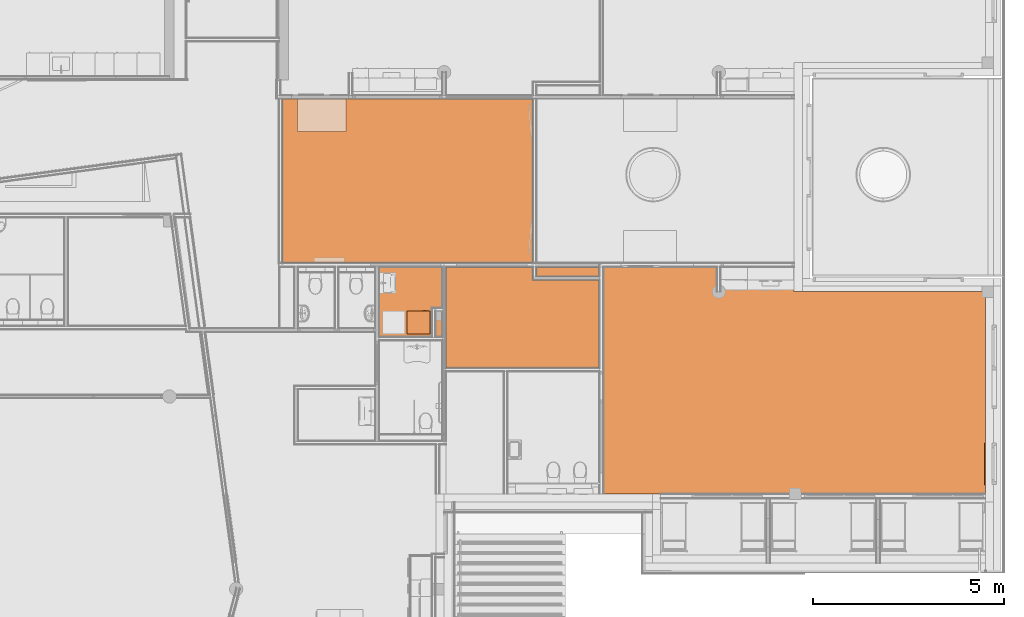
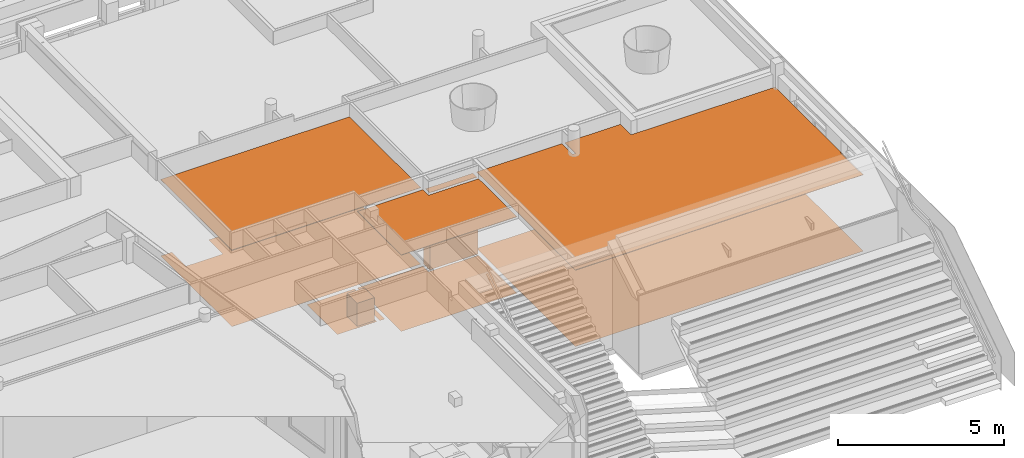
# One storey, part 154 of 167: 9 proxies.
"""IFC2X3 building model written with IfcOpenShell, lengths in millimetres."""

from ifc_helpers import new_model, entity, si_unit, converted_unit, derived_unit, money_unit, direction, frame, origin_with_axes, place, context, subcontext, project, spatial, open_shell, faceted_brep, surface_model, material, type_object, element, save


model = new_model("IFC2X3")

# Units and contexts
model_context = context("Model", 3, precision=0.01, world=origin_with_axes(), true_north=direction((0.0, 1.0)))
plan_context = context("Plan", 3, precision=0.01, world=origin_with_axes(), true_north=direction((0.0, 1.0)))
body_context = subcontext(model_context, "Body", "Model", "MODEL_VIEW")
ifc_project = project(units=[si_unit("LENGTHUNIT", "METRE", prefix="MILLI"), si_unit("AREAUNIT", "SQUARE_METRE"), si_unit("VOLUMEUNIT", "CUBIC_METRE"), converted_unit("PLANEANGLEUNIT", "DEGREE", entity("IfcPlaneAngleMeasure", 0.0174532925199), si_unit("PLANEANGLEUNIT", "RADIAN"), dimensions=[0, 0, 0, 0, 0, 0, 0]), si_unit("SOLIDANGLEUNIT", "STERADIAN"), money_unit("EUR"), converted_unit("TIMEUNIT", "Year", entity("IfcTimeMeasure", 31556926.0), si_unit("TIMEUNIT", "SECOND"), dimensions=[0, 0, 1, 0, 0, 0, 0]), si_unit("MASSUNIT", "GRAM", prefix="KILO"), si_unit("THERMODYNAMICTEMPERATUREUNIT", "DEGREE_CELSIUS"), si_unit("LUMINOUSINTENSITYUNIT", "LUMEN"), si_unit("ENERGYUNIT", "JOULE", prefix="MEGA"), derived_unit("THERMALCONDUCTANCEUNIT", [(si_unit("POWERUNIT", "WATT"), 1), (si_unit("LENGTHUNIT", "METRE"), -1), (si_unit("THERMODYNAMICTEMPERATUREUNIT", "KELVIN"), -1)]), derived_unit("SPECIFICHEATCAPACITYUNIT", [(si_unit("ENERGYUNIT", "JOULE"), 1), (si_unit("MASSUNIT", "GRAM", prefix="KILO"), -1), (si_unit("THERMODYNAMICTEMPERATUREUNIT", "KELVIN"), -1)]), derived_unit("MASSDENSITYUNIT", [(si_unit("MASSUNIT", "GRAM", prefix="KILO"), 1), (si_unit("VOLUMEUNIT", "CUBIC_METRE"), -1)])], contexts=[model_context, plan_context])

# Site, building, storey
site_placement = place(None, origin_with_axes())
site = spatial("IfcSite", under=ifc_project, at=site_placement, Name="Site", CompositionType="ELEMENT")
building_placement = place(site_placement, origin_with_axes())
building = spatial("IfcBuilding", under=site, at=building_placement, Name="Naam gebouw", CompositionType="ELEMENT")
storey_placement = place(building_placement, origin_with_axes())
storey = spatial("IfcBuildingStorey", under=building, at=storey_placement, Name="Begane grond", CompositionType="ELEMENT", Elevation=0.0)

# Proxies
ifc_material_1 = material(Name="ALG - BINNENAFWERKING")
building_element_proxy_type_1 = type_object("IfcBuildingElementProxyType", Name="ALG - BINNENAFWERKING 10", PredefinedType="NOTDEFINED")
proxy_1_placement = place(storey_placement, frame((28850.0, 34599.9995346, 2800.0), z_axis=(0.0, 0.0, 1.0), x_axis=(1.0, 0.0, 0.0)))
element("IfcBuildingElementProxy", 1, at=proxy_1_placement, inside=storey, type_object=building_element_proxy_type_1, material=ifc_material_1, Name="23__Vloer-x", context=body_context, shape_type="Brep", body=[
    faceted_brep([(2271.79688487, 2300.00046543, 10.0), (2271.79688487, 2312.50046543, 10.0), (2271.79688487, 2637.50046543, 10.0), (0.0, 2637.50046543, 10.0), (0.0, 0.0, 10.0), (4012.78146645, 0.0, 10.0), (4012.78146645, 2300.00046543, 10.0), (2271.79688487, 2300.00046543, 0.0), (2271.79688487, 2312.50046543, 0.0), (2271.79688487, 2637.50046543, 0.0), (0.0, 2637.50046543, 0.0), (0.0, 0.0, 0.0), (4012.78146645, 0.0, 0.0), (4012.78146645, 2300.00046543, 0.0)], [[[0, 1, 2, 3, 4, 5, 6]], [[7, 8, 1, 0]], [[8, 9, 2, 1]], [[3, 2, 9, 10]], [[4, 3, 10, 11]], [[5, 4, 11, 12]], [[12, 13, 6, 5]], [[7, 0, 6, 13]], [[10, 9, 8, 7, 13, 12, 11]]]),
    faceted_brep([(4012.78146645, 2637.50046543, 0.0), (2371.79688487, 2637.50046543, 0.0), (2371.79688487, 2637.50046543, 10.0), (4012.78146645, 2637.50046543, 10.0), (4012.78146645, 2400.00046543, 0.0), (2371.79688487, 2400.00046543, 0.0), (2371.79688487, 2400.00046543, 10.0), (4012.78146645, 2400.00046543, 10.0)], [[[0, 1, 2, 3]], [[4, 5, 1, 0]], [[5, 6, 2, 1]], [[3, 2, 6, 7]], [[3, 7, 4, 0]], [[7, 6, 5, 4]]]),
])
proxy_2_placement = place(storey_placement, frame((32987.7814665, 37237.5, 2800.0), z_axis=(0.0, 0.0, 1.0), x_axis=(1.0, 0.0, 0.0)))
element("IfcBuildingElementProxy", 2, at=proxy_2_placement, inside=storey, type_object=building_element_proxy_type_1, material=ifc_material_1, Name="23__Vloer-x", context=body_context, shape_type="Brep", body=[
    faceted_brep([(2962.21853355, -637.499997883, 0.0), (3062.21853355, -637.499997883, 0.0), (3062.21853355, -587.49999395, 0.0), (3062.21853355, 0.0, 0.0), (4987.21853355, 0.0, 0.0), (4987.21853355, -637.500008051, 0.0), (9998.21852178, -637.499728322, 0.0), (9998.21860149, -5937.50022618, 0.0), (1487.21853423, -5937.50022618, 0.0), (0.0, -5937.50022618, 0.0), (0.0, 0.0, 0.0), (2962.21853355, 0.0, 0.0), (2962.21853355, -587.49999395, 0.0), (9976.55381534, -4602.68106033, -4.25865489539e-05), (9976.55381534, -5707.68106033, -4.25865489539e-05), (9994.55381534, -5707.68106033, -4.25865489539e-05), (9994.55381534, -4602.68106033, -4.25865489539e-05), (2962.21853355, -637.499997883, 10.0), (3062.21853355, -637.499997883, 10.0), (3062.21853355, -587.49999395, 10.0), (3062.21853355, 0.0, 10.0), (4987.21853355, 0.0, 10.0), (4987.21853355, -637.500008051, 10.0), (9998.21852178, -637.499728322, 10.0), (9998.21860149, -5937.50022618, 10.0), (1487.21853423, -5937.50022618, 10.0), (0.0, -5937.50022618, 10.0), (0.0, 0.0, 10.0), (2962.21853355, 0.0, 10.0), (2962.21853355, -587.49999395, 10.0), (9976.55381534, -4602.68106033, 10.0), (9976.55381534, -5707.68106033, 10.0), (9994.55381534, -5707.68106033, 10.0), (9994.55381534, -4602.68106033, 10.0)], [[[0, 1, 2, 3, 4, 5, 6, 7, 8, 9, 10, 11, 12], [13, 14, 15, 16]], [[17, 18, 1, 0]], [[1, 18, 19, 2]], [[3, 2, 19, 20]], [[20, 21, 4, 3]], [[21, 22, 5, 4]], [[22, 23, 6, 5]], [[23, 24, 7, 6]], [[8, 7, 24, 25]], [[9, 8, 25, 26]], [[26, 27, 10, 9]], [[27, 28, 11, 10]], [[28, 29, 12, 11]], [[0, 12, 29, 17]], [[13, 30, 31, 14]], [[14, 31, 32, 15]], [[15, 32, 33, 16]], [[16, 33, 30, 13]], [[19, 18, 17, 29, 28, 27, 26, 25, 24, 23, 22, 21, 20], [32, 31, 30, 33]]]),
])
proxy_3_placement = place(storey_placement, frame((24565.0000092, 37349.999931, 2800.0), z_axis=(0.0, 0.0, 1.0), x_axis=(1.0, 0.0, 0.0)))
element("IfcBuildingElementProxy", 3, at=proxy_3_placement, inside=storey, type_object=building_element_proxy_type_1, material=ifc_material_1, Name="23__Vloer-x", context=body_context, shape_type="Brep", body=[
    faceted_brep([(0.00292572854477, 4300.00006903, 10.0), (8.50507575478e-06, 12.5000690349, 10.0), (6556.5962701, 12.5000690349, 10.0), (6556.79687568, 4300.00006903, 10.0), (0.00292572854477, 4300.00006903, 0.0), (8.50507575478e-06, 12.5000690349, 0.0), (6556.5962701, 12.5000690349, 0.0), (6556.79687568, 4300.00006903, 0.0)], [[[0, 1, 2, 3]], [[4, 5, 1, 0]], [[5, 6, 2, 1]], [[3, 2, 6, 7]], [[0, 3, 7, 4]], [[7, 6, 5, 4]]]),
])
ifc_material_2 = material(Name="_TenW_43_A2 Forbo Impressa")
building_element_proxy_type_2 = type_object("IfcBuildingElementProxyType", Name="_TenW_43_A2 Forbo Impressa 2", PredefinedType="NOTDEFINED")
proxy_4_placement = place(storey_placement, frame((32987.7814665, 31299.9997738, 0.0), z_axis=(0.0, 0.0, 1.0), x_axis=(1.0, 0.0, 0.0)))
element("IfcBuildingElementProxy", 4, at=proxy_4_placement, inside=storey, type_object=building_element_proxy_type_2, material=ifc_material_2, Name="23__Vloer-x", context=body_context, shape_type="Brep", body=[
    faceted_brep([(4987.21845935, 5937.50022618, 0.0), (3062.21853355, 5937.50022618, 0.0), (3062.21853355, 5937.50022618, 2.0), (4987.21845935, 5937.50022618, 2.0), (2962.21853355, 5300.0002283, 0.0), (3062.21853355, 5300.0002283, 0.0), (4987.21845935, 5300.00024001, 0.0), (5475.10061829, 5300.00021813, 0.0), (9426.65883247, 5300.00021813, 0.0), (9912.21846101, 5300.00024001, 0.0), (9912.21846101, 5150.00029366, 0.0), (9998.21853355, 5150.00029366, 0.0), (9998.21853355, 0.0, 0.0), (0.0, 0.0, 0.0), (0.0, 5937.50022618, 0.0), (2962.21853355, 5937.50022618, 0.0), (3062.21853355, 5300.0002283, 2.0), (2962.21853355, 5300.0002283, 2.0), (2962.21853355, 5937.50022618, 2.0), (0.0, 5937.50022618, 2.0), (0.0, 0.0, 2.0), (9998.21853355, 0.0, 2.0), (9998.21853355, 5150.00029366, 2.0), (9912.21846101, 5150.00029366, 2.0), (9912.21846101, 5300.00024001, 2.0), (9426.65883247, 5300.00021813, 2.0), (5475.10061829, 5300.00021813, 2.0), (4987.21845935, 5300.00024001, 2.0)], [[[0, 1, 2, 3]], [[4, 5, 1, 0, 6, 7, 8, 9, 10, 11, 12, 13, 14, 15]], [[5, 16, 2, 1]], [[2, 16, 17, 18, 19, 20, 21, 22, 23, 24, 25, 26, 27, 3]], [[6, 0, 3, 27]], [[17, 16, 5, 4]], [[27, 26, 7, 6]], [[7, 26, 25, 8]], [[9, 8, 25, 24]], [[24, 23, 10, 9]], [[23, 22, 11, 10]], [[22, 21, 12, 11]], [[21, 20, 13, 12]], [[20, 19, 14, 13]], [[19, 18, 15, 14]], [[4, 15, 18, 17]]]),
])
ifc_material_3 = material(Name="_TenW_43_Flexx F15")
building_element_proxy_type_3 = type_object("IfcBuildingElementProxyType", Name="_TenW_43_Flexx F15 2", PredefinedType="NOTDEFINED")
proxy_5_placement = place(storey_placement, frame((27100.0000071, 35417.4000093, 0.0), z_axis=(0.0, 0.0, 1.0), x_axis=(1.0, 0.0, 0.0)))
element("IfcBuildingElementProxy", 5, at=proxy_5_placement, inside=storey, type_object=building_element_proxy_type_3, material=ifc_material_3, Name="23__Vloer-x", context=body_context, shape_type="Brep", body=[
    faceted_brep([(1650.00001524, 0.0, 0.0), (1650.00001524, 665.099990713, 0.0), (1650.00001524, 665.099990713, 2.0), (1650.00001524, 0.0, 2.0), (1474.99999291, 0.0, 0.0), (1474.99999291, 665.099990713, 0.0), (1474.99999291, 665.099990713, 2.0), (1474.99999291, 0.0, 2.0)], [[[0, 1, 2, 3]], [[4, 5, 1, 0]], [[5, 6, 2, 1]], [[3, 2, 6, 7]], [[3, 7, 4, 0]], [[7, 6, 5, 4]]]),
    faceted_brep([(1374.99999291, 765.099990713, 2.0), (1387.49999291, 765.099990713, 2.0), (1650.00001524, 765.099990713, 2.0), (1650.00001524, 1820.09999071, 2.0), (0.000446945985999, 1820.09999071, 2.0), (0.0, 0.0, 2.0), (1374.99999291, 0.0, 2.0), (1374.99999291, 765.099990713, 0.0), (1387.49999291, 765.099990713, 0.0), (1650.00001524, 765.099990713, 0.0), (1650.00001524, 1820.09999071, 0.0), (0.000446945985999, 1820.09999071, 0.0), (0.0, 0.0, 0.0), (1374.99999291, 0.0, 0.0)], [[[0, 1, 2, 3, 4, 5, 6]], [[7, 8, 1, 0]], [[8, 9, 2, 1]], [[3, 2, 9, 10]], [[4, 3, 10, 11]], [[5, 4, 11, 12]], [[12, 13, 6, 5]], [[7, 0, 6, 13]], [[10, 9, 8, 7, 13, 12, 11]]]),
])
building_element_proxy_type_4 = type_object("IfcBuildingElementProxyType", Name="Boekenplank 01 24", PredefinedType="NOTDEFINED")
proxy_6_placement = place(storey_placement, frame((31209.2968849, 37350.0, 0.0), z_axis=(0.0, 0.0, 1.0), x_axis=(-1.0, 0.0, 0.0)))
element("IfcBuildingElementProxy", 6, at=proxy_6_placement, inside=storey, type_object=building_element_proxy_type_4, Name="__Object-x", context=body_context, shape_type="Brep", body=[
    faceted_brep([(-1645.98458158, 400.0, 20.0), (-1645.98458158, 380.0, 20.0), (-1645.98458158, 380.0, 1180.0), (-1645.98458158, 400.0, 1180.0), (-20.0, 400.0, 20.0), (-20.0, 380.0, 20.0), (-20.0, 380.0, 1180.0), (-20.0, 400.0, 1180.0)], [[[0, 1, 2, 3]], [[0, 4, 5, 1]], [[1, 5, 6, 2]], [[3, 2, 6, 7]], [[4, 0, 3, 7]], [[5, 4, 7, 6]]]),
    faceted_brep([(-1645.98458158, 380.0, 0.0), (-1645.98458158, 0.0, 0.0), (-1645.98458158, 0.0, 30.0), (-1645.98458158, 380.0, 30.0), (-20.0, 380.0, 0.0), (-20.0, 0.0, 0.0), (-20.0, 0.0, 30.0), (-20.0, 380.0, 30.0)], [[[0, 1, 2, 3]], [[0, 4, 5, 1]], [[1, 5, 6, 2]], [[3, 2, 6, 7]], [[4, 0, 3, 7]], [[5, 4, 7, 6]]]),
    faceted_brep([(-1645.98458158, 380.0, 1170.0), (-1645.98458158, 0.0, 1170.0), (-1645.98458158, 0.0, 1200.0), (-1645.98458158, 380.0, 1200.0), (-20.0, 380.0, 1170.0), (-20.0, 0.0, 1170.0), (-20.0, 0.0, 1200.0), (-20.0, 380.0, 1200.0)], [[[0, 1, 2, 3]], [[0, 4, 5, 1]], [[1, 5, 6, 2]], [[3, 2, 6, 7]], [[4, 0, 3, 7]], [[5, 4, 7, 6]]]),
    faceted_brep([(-20.0, 0.0, 0.0), (0.0, 0.0, 0.0), (0.0, 0.0, 1200.0), (-20.0, 0.0, 1200.0), (-20.0, 400.0, 0.0), (0.0, 400.0, 0.0), (0.0, 400.0, 1200.0), (-20.0, 400.0, 1200.0)], [[[0, 1, 2, 3]], [[0, 4, 5, 1]], [[1, 5, 6, 2]], [[3, 2, 6, 7]], [[4, 0, 3, 7]], [[5, 4, 7, 6]]]),
    faceted_brep([(-1645.98458158, 400.0, 0.0), (-1665.98458158, 400.0, 0.0), (-1665.98458158, 400.0, 1200.0), (-1645.98458158, 400.0, 1200.0), (-1645.98458158, 0.0, 0.0), (-1665.98458158, 0.0, 0.0), (-1665.98458158, 0.0, 1200.0), (-1645.98458158, 0.0, 1200.0)], [[[0, 1, 2, 3]], [[0, 4, 5, 1]], [[1, 5, 6, 2]], [[3, 2, 6, 7]], [[4, 0, 3, 7]], [[5, 4, 7, 6]]]),
])
ifc_material_4 = material(Name="_TenW_43_Marmoleum Salsa Verde")
building_element_proxy_type_5 = type_object("IfcBuildingElementProxyType", Name="_TenW_43_Marmoleum Salsa Verde 2", PredefinedType="NOTDEFINED")
proxy_7_placement = place(storey_placement, frame((28850.0, 34599.9995346, 0.0), z_axis=(0.0, 0.0, 1.0), x_axis=(1.0, 0.0, 0.0)))
element("IfcBuildingElementProxy", 7, at=proxy_7_placement, inside=storey, type_object=building_element_proxy_type_5, material=ifc_material_4, Name="23__Vloer-x", context=body_context, shape_type="Brep", body=[
    faceted_brep([(0.0, 0.0, 2.0), (0.0, 0.0, 0.0), (4012.78146645, 0.0, 0.0), (4012.78146645, 0.0, 2.0), (0.0, 2637.50046543, 2.0), (0.0, 2637.50046543, 0.0), (2271.79688487, 2637.50046543, 0.0), (2271.79688487, 2300.00046543, 0.0), (4012.78146645, 2300.00046543, 0.0), (4012.78146645, 2300.00046543, 2.0), (2271.79688487, 2300.00046543, 2.0), (2271.79688487, 2637.50046543, 2.0)], [[[0, 1, 2, 3]], [[4, 5, 1, 0]], [[2, 1, 5, 6, 7, 8]], [[3, 2, 8, 9]], [[4, 0, 3, 9, 10, 11]], [[11, 6, 5, 4]], [[10, 7, 6, 11]], [[9, 8, 7, 10]]]),
])
proxy_8_placement = place(storey_placement, frame((24565.0000092, 37362.5, 0.0), z_axis=(0.0, 0.0, 1.0), x_axis=(1.0, 0.0, 0.0)))
element("IfcBuildingElementProxy", 8, at=proxy_8_placement, inside=storey, type_object=building_element_proxy_type_5, material=ifc_material_4, Name="23__Vloer-x", context=body_context, shape_type="Brep", body=[
    faceted_brep([(0.0, 0.0, 2.0), (0.0, 0.0, 0.0), (6556.79687568, 0.0, 0.0), (6556.79687568, 0.0, 2.0), (0.0, 4287.5, 2.0), (0.0, 4287.5, 0.0), (393.36131601, 4287.5, 0.0), (393.36131601, 3437.5, 0.0), (1667.99999081, 3437.5, 0.0), (1667.99999081, 4287.5, 0.0), (6556.79687568, 4287.5, 0.0), (6556.79687568, 4287.5, 2.0), (1667.99999081, 4287.5, 2.0), (1667.99999081, 3437.5, 2.0), (393.36131601, 3437.5, 2.0), (393.36131601, 4287.5, 2.0)], [[[0, 1, 2, 3]], [[4, 5, 1, 0]], [[2, 1, 5, 6, 7, 8, 9, 10]], [[3, 2, 10, 11]], [[4, 0, 3, 11, 12, 13, 14, 15]], [[15, 6, 5, 4]], [[14, 7, 6, 15]], [[13, 8, 7, 14]], [[12, 9, 8, 13]], [[11, 10, 9, 12]]]),
])
building_element_proxy_type_6 = type_object("IfcBuildingElementProxyType", Name="Droger 24", PredefinedType="NOTDEFINED")
proxy_9_placement = place(storey_placement, frame((28428.7955453, 36090.9955132, 0.0), z_axis=(0.0, 0.0, 1.0), x_axis=(-1.0, 0.0, 0.0)))
element("IfcBuildingElementProxy", 9, at=proxy_9_placement, inside=storey, type_object=building_element_proxy_type_6, Name="__object-x", context=body_context, shape_type="SurfaceModel", body=[
    faceted_brep([(0.0, 20.0, 0.0), (600.0, 20.0, 0.0), (600.0, 0.0, 0.0), (0.0, 0.0, 0.0), (0.0, 20.0, 698.888888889), (600.0, 20.0, 698.888888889), (470.0, 20.0, 349.444444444), (447.224318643, 20.0, 434.444444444), (385.0, 20.0, 496.668763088), (300.0, 20.0, 519.444444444), (215.0, 20.0, 496.668763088), (152.775681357, 20.0, 434.444444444), (130.0, 20.0, 349.444444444), (152.775681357, 20.0, 264.444444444), (215.0, 20.0, 202.220125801), (300.0, 20.0, 179.444444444), (385.0, 20.0, 202.220125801), (447.224318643, 20.0, 264.444444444), (600.0, 0.0, 698.888888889), (0.0, 0.0, 698.888888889), (470.0, 0.0, 349.444444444), (447.224318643, 0.0, 264.444444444), (385.0, 0.0, 202.220125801), (300.0, 0.0, 179.444444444), (215.0, 0.0, 202.220125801), (152.775681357, 0.0, 264.444444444), (130.0, 0.0, 349.444444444), (152.775681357, 0.0, 434.444444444), (215.0, 0.0, 496.668763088), (300.0, 0.0, 519.444444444), (385.0, 0.0, 496.668763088), (447.224318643, 0.0, 434.444444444)], [[[0, 1, 2, 3]], [[0, 4, 5, 1], [6, 7, 8, 9, 10, 11, 12, 13, 14, 15, 16, 17]], [[1, 5, 18, 2]], [[3, 2, 18, 19], [20, 21, 22, 23, 24, 25, 26, 27, 28, 29, 30, 31]], [[4, 0, 3, 19]], [[5, 4, 19, 18]], [[7, 6, 20, 31]], [[8, 7, 31, 30]], [[9, 8, 30, 29]], [[10, 9, 29, 28]], [[11, 10, 28, 27]], [[12, 11, 27, 26]], [[13, 12, 26, 25]], [[14, 13, 25, 24]], [[15, 14, 24, 23]], [[16, 15, 23, 22]], [[17, 16, 22, 21]], [[6, 17, 21, 20]]]),
    faceted_brep([(470.0, 40.0, 349.444444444), (447.224318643, 40.0, 434.444444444), (447.224318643, 20.0, 434.444444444), (470.0, 20.0, 349.444444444), (447.224318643, 40.0, 264.444444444), (385.0, 40.0, 202.220125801), (300.0, 40.0, 179.444444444), (215.0, 40.0, 202.220125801), (152.775681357, 40.0, 264.444444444), (130.0, 40.0, 349.444444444), (152.775681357, 40.0, 434.444444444), (215.0, 40.0, 496.668763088), (300.0, 40.0, 519.444444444), (385.0, 40.0, 496.668763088), (436.0, 40.0, 349.444444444), (417.779454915, 40.0, 417.444444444), (368.0, 40.0, 467.223899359), (300.0, 40.0, 485.444444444), (232.0, 40.0, 467.223899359), (182.220545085, 40.0, 417.444444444), (164.0, 40.0, 349.444444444), (182.220545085, 40.0, 281.444444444), (232.0, 40.0, 231.66498953), (300.0, 40.0, 213.444444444), (368.0, 40.0, 231.66498953), (417.779454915, 40.0, 281.444444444), (385.0, 20.0, 496.668763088), (300.0, 20.0, 519.444444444), (215.0, 20.0, 496.668763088), (152.775681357, 20.0, 434.444444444), (130.0, 20.0, 349.444444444), (152.775681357, 20.0, 264.444444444), (215.0, 20.0, 202.220125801), (300.0, 20.0, 179.444444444), (385.0, 20.0, 202.220125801), (447.224318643, 20.0, 264.444444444), (436.0, 20.0, 349.444444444), (417.779454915, 20.0, 281.444444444), (368.0, 20.0, 231.66498953), (300.0, 20.0, 213.444444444), (232.0, 20.0, 231.66498953), (182.220545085, 20.0, 281.444444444), (164.0, 20.0, 349.444444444), (182.220545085, 20.0, 417.444444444), (232.0, 20.0, 467.223899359), (300.0, 20.0, 485.444444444), (368.0, 20.0, 467.223899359), (417.779454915, 20.0, 417.444444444)], [[[0, 1, 2, 3]], [[0, 4, 5, 6, 7, 8, 9, 10, 11, 12, 13, 1], [14, 15, 16, 17, 18, 19, 20, 21, 22, 23, 24, 25]], [[1, 13, 26, 2]], [[3, 2, 26, 27, 28, 29, 30, 31, 32, 33, 34, 35], [36, 37, 38, 39, 40, 41, 42, 43, 44, 45, 46, 47]], [[4, 0, 3, 35]], [[5, 4, 35, 34]], [[6, 5, 34, 33]], [[7, 6, 33, 32]], [[8, 7, 32, 31]], [[9, 8, 31, 30]], [[10, 9, 30, 29]], [[11, 10, 29, 28]], [[12, 11, 28, 27]], [[13, 12, 27, 26]], [[15, 14, 36, 47]], [[16, 15, 47, 46]], [[17, 16, 46, 45]], [[18, 17, 45, 44]], [[19, 18, 44, 43]], [[20, 19, 43, 42]], [[21, 20, 42, 41]], [[22, 21, 41, 40]], [[23, 22, 40, 39]], [[24, 23, 39, 38]], [[25, 24, 38, 37]], [[14, 25, 37, 36]]]),
    surface_model("IfcShellBasedSurfaceModel", [(232.0, 40.0, 467.223899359), (300.0, 40.0, 485.444444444), (300.0, 140.0, 451.444444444), (249.0, 140.0, 437.77903563), (368.0, 40.0, 467.223899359), (351.0, 140.0, 437.77903563), (388.334591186, 140.0, 400.444444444), (402.0, 140.0, 349.444444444), (388.334591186, 140.0, 298.444444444), (351.0, 140.0, 261.109853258), (300.0, 140.0, 247.444444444), (249.0, 140.0, 261.109853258), (211.665408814, 140.0, 298.444444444), (198.0, 140.0, 349.444444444), (211.665408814, 140.0, 400.444444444), (182.220545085, 40.0, 417.444444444), (417.779454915, 40.0, 417.444444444), (436.0, 40.0, 349.444444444), (417.779454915, 40.0, 281.444444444), (368.0, 40.0, 231.66498953), (300.0, 40.0, 213.444444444), (232.0, 40.0, 231.66498953), (182.220545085, 40.0, 281.444444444), (164.0, 40.0, 349.444444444)], [open_shell([[[0, 1, 2, 3]], [[1, 4, 5, 2]], [[2, 5, 6, 7, 8, 9, 10, 11, 12, 13, 14, 3]], [[15, 0, 3, 14]], [[4, 16, 6, 5]], [[16, 17, 7, 6]], [[17, 18, 8, 7]], [[18, 19, 9, 8]], [[19, 20, 10, 9]], [[20, 21, 11, 10]], [[21, 22, 12, 11]], [[22, 23, 13, 12]], [[23, 15, 14, 13]]])]),
    surface_model("IfcShellBasedSurfaceModel", [(0.0, 20.0, 0.0), (0.0, 20.0, 821.666666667), (0.0, 600.0, 821.666666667), (0.0, 600.0, 0.0)], [open_shell([[[0, 1, 2, 3]]])]),
    surface_model("IfcShellBasedSurfaceModel", [(600.0, 20.0, 0.0), (600.0, 20.0, 821.666666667), (600.0, 600.0, 821.666666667), (600.0, 600.0, 0.0)], [open_shell([[[0, 1, 2, 3]]])]),
    surface_model("IfcShellBasedSurfaceModel", [(0.0, 600.0, 0.0), (0.0, 600.0, 821.666666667), (600.0, 600.0, 821.666666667), (600.0, 600.0, 0.0)], [open_shell([[[0, 1, 2, 3]]])]),
    surface_model("IfcShellBasedSurfaceModel", [(0.0, 600.0, 0.0), (0.0, 20.0, 0.0), (600.0, 20.0, 0.0), (600.0, 600.0, 0.0)], [open_shell([[[0, 1, 2, 3]]])]),
    faceted_brep([(0.0, 20.0, 708.333333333), (600.0, 20.0, 708.333333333), (600.0, 0.0, 708.333333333), (0.0, 0.0, 708.333333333), (0.0, 20.0, 812.222222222), (600.0, 20.0, 812.222222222), (600.0, 0.0, 812.222222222), (0.0, 0.0, 812.222222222)], [[[0, 1, 2, 3]], [[0, 4, 5, 1]], [[1, 5, 6, 2]], [[3, 2, 6, 7]], [[4, 0, 3, 7]], [[5, 4, 7, 6]]]),
    surface_model("IfcShellBasedSurfaceModel", [(0.0, 20.0, 698.888888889), (0.0, 20.0, 821.666666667), (600.0, 20.0, 821.666666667), (600.0, 20.0, 698.888888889)], [open_shell([[[0, 1, 2, 3]]])]),
    faceted_brep([(0.0, 0.0, 821.666666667), (600.0, 0.0, 821.666666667), (600.0, 0.0, 850.0), (0.0, 0.0, 850.0), (0.0, 600.0, 821.666666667), (600.0, 600.0, 821.666666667), (600.0, 600.0, 850.0), (0.0, 600.0, 850.0)], [[[0, 1, 2, 3]], [[0, 4, 5, 1]], [[1, 5, 6, 2]], [[3, 2, 6, 7]], [[4, 0, 3, 7]], [[5, 4, 7, 6]]]),
    faceted_brep([(68.6602540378, 0.0, 760.0), (65.0, 0.0, 756.339745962), (60.0, 0.0, 755.0), (55.0, 0.0, 756.339745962), (51.3397459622, 0.0, 760.0), (50.0, 0.0, 765.0), (51.3397459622, 0.0, 770.0), (55.0, 0.0, 773.660254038), (60.0, 0.0, 775.0), (65.0, 0.0, 773.660254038), (68.6602540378, 0.0, 770.0), (70.0, 0.0, 765.0), (68.6602540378, -10.0, 760.0), (65.0, -10.0, 756.339745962), (60.0, -10.0, 755.0), (55.0, -10.0, 756.339745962), (51.3397459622, -10.0, 760.0), (50.0, -10.0, 765.0), (51.3397459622, -10.0, 770.0), (55.0, -10.0, 773.660254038), (60.0, -10.0, 775.0), (65.0, -10.0, 773.660254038), (68.6602540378, -10.0, 770.0), (70.0, -10.0, 765.0)], [[[0, 1, 2, 3, 4, 5, 6, 7, 8, 9, 10, 11]], [[1, 0, 12, 13]], [[2, 1, 13, 14]], [[3, 2, 14, 15]], [[4, 3, 15, 16]], [[5, 4, 16, 17]], [[6, 5, 17, 18]], [[7, 6, 18, 19]], [[8, 7, 19, 20]], [[9, 8, 20, 21]], [[10, 9, 21, 22]], [[11, 10, 22, 23]], [[0, 11, 23, 12]], [[12, 23, 22, 21, 20, 19, 18, 17, 16, 15, 14, 13]]]),
    faceted_brep([(108.660254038, 0.0, 760.0), (105.0, 0.0, 756.339745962), (100.0, 0.0, 755.0), (95.0, 0.0, 756.339745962), (91.3397459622, 0.0, 760.0), (90.0, 0.0, 765.0), (91.3397459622, 0.0, 770.0), (95.0, 0.0, 773.660254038), (100.0, 0.0, 775.0), (105.0, 0.0, 773.660254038), (108.660254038, 0.0, 770.0), (110.0, 0.0, 765.0), (108.660254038, -10.0, 760.0), (105.0, -10.0, 756.339745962), (100.0, -10.0, 755.0), (95.0, -10.0, 756.339745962), (91.3397459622, -10.0, 760.0), (90.0, -10.0, 765.0), (91.3397459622, -10.0, 770.0), (95.0, -10.0, 773.660254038), (100.0, -10.0, 775.0), (105.0, -10.0, 773.660254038), (108.660254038, -10.0, 770.0), (110.0, -10.0, 765.0)], [[[0, 1, 2, 3, 4, 5, 6, 7, 8, 9, 10, 11]], [[1, 0, 12, 13]], [[2, 1, 13, 14]], [[3, 2, 14, 15]], [[4, 3, 15, 16]], [[5, 4, 16, 17]], [[6, 5, 17, 18]], [[7, 6, 18, 19]], [[8, 7, 19, 20]], [[9, 8, 20, 21]], [[10, 9, 21, 22]], [[11, 10, 22, 23]], [[0, 11, 23, 12]], [[12, 23, 22, 21, 20, 19, 18, 17, 16, 15, 14, 13]]]),
    faceted_brep([(148.660254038, 0.0, 760.0), (145.0, 0.0, 756.339745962), (140.0, 0.0, 755.0), (135.0, 0.0, 756.339745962), (131.339745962, 0.0, 760.0), (130.0, 0.0, 765.0), (131.339745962, 0.0, 770.0), (135.0, 0.0, 773.660254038), (140.0, 0.0, 775.0), (145.0, 0.0, 773.660254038), (148.660254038, 0.0, 770.0), (150.0, 0.0, 765.0), (148.660254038, -10.0, 760.0), (145.0, -10.0, 756.339745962), (140.0, -10.0, 755.0), (135.0, -10.0, 756.339745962), (131.339745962, -10.0, 760.0), (130.0, -10.0, 765.0), (131.339745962, -10.0, 770.0), (135.0, -10.0, 773.660254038), (140.0, -10.0, 775.0), (145.0, -10.0, 773.660254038), (148.660254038, -10.0, 770.0), (150.0, -10.0, 765.0)], [[[0, 1, 2, 3, 4, 5, 6, 7, 8, 9, 10, 11]], [[1, 0, 12, 13]], [[2, 1, 13, 14]], [[3, 2, 14, 15]], [[4, 3, 15, 16]], [[5, 4, 16, 17]], [[6, 5, 17, 18]], [[7, 6, 18, 19]], [[8, 7, 19, 20]], [[9, 8, 20, 21]], [[10, 9, 21, 22]], [[11, 10, 22, 23]], [[0, 11, 23, 12]], [[12, 23, 22, 21, 20, 19, 18, 17, 16, 15, 14, 13]]]),
    faceted_brep([(188.660254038, 0.0, 760.0), (185.0, 0.0, 756.339745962), (180.0, 0.0, 755.0), (175.0, 0.0, 756.339745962), (171.339745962, 0.0, 760.0), (170.0, 0.0, 765.0), (171.339745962, 0.0, 770.0), (175.0, 0.0, 773.660254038), (180.0, 0.0, 775.0), (185.0, 0.0, 773.660254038), (188.660254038, 0.0, 770.0), (190.0, 0.0, 765.0), (188.660254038, -10.0, 760.0), (185.0, -10.0, 756.339745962), (180.0, -10.0, 755.0), (175.0, -10.0, 756.339745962), (171.339745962, -10.0, 760.0), (170.0, -10.0, 765.0), (171.339745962, -10.0, 770.0), (175.0, -10.0, 773.660254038), (180.0, -10.0, 775.0), (185.0, -10.0, 773.660254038), (188.660254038, -10.0, 770.0), (190.0, -10.0, 765.0)], [[[0, 1, 2, 3, 4, 5, 6, 7, 8, 9, 10, 11]], [[1, 0, 12, 13]], [[2, 1, 13, 14]], [[3, 2, 14, 15]], [[4, 3, 15, 16]], [[5, 4, 16, 17]], [[6, 5, 17, 18]], [[7, 6, 18, 19]], [[8, 7, 19, 20]], [[9, 8, 20, 21]], [[10, 9, 21, 22]], [[11, 10, 22, 23]], [[0, 11, 23, 12]], [[12, 23, 22, 21, 20, 19, 18, 17, 16, 15, 14, 13]]]),
])

save(model, "model.ifc")
